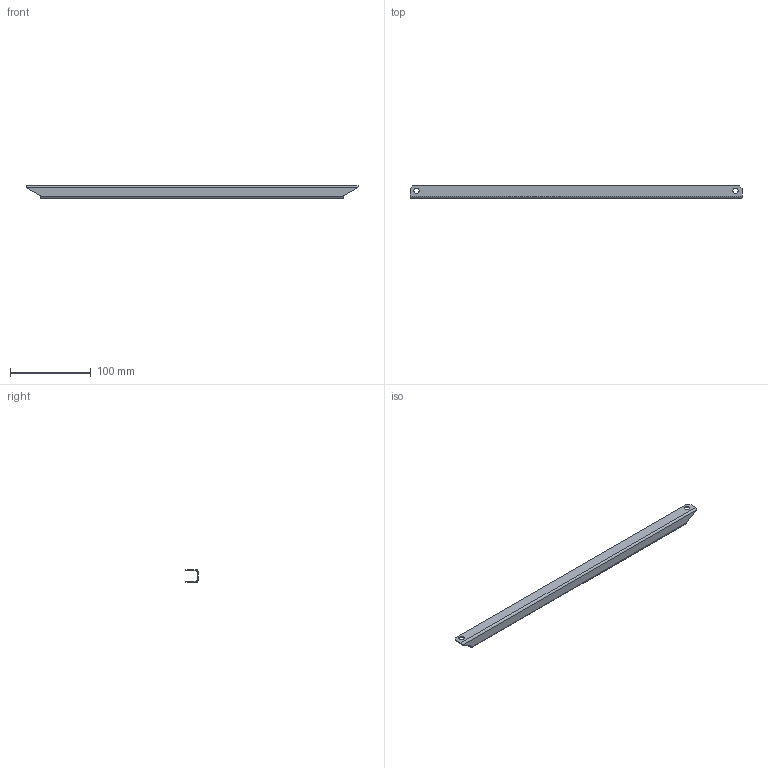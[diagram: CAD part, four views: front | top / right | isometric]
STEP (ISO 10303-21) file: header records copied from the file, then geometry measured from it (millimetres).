
FILE_DESCRIPTION (( 'STEP AP203' ), '1' );
FILE_NAME ('VB 50 Ðåéêà.STEP', '2012-11-15T06:56:25', ( 'Àëåêñàíäð' ), ( 'Ïðîâåíòî' ), 'SwSTEP 2.0', 'SolidWorks 2012', '' );
FILE_SCHEMA (( 'CONFIG_CONTROL_DESIGN' ));
Length unit declared in the file: millimetre
Products named in the file (1): VB 50 Ðåéêà
Bounding box: 410 x 15 x 15.5 mm (x, y, z)
Volume: 19217.6 mm3; surface area: 33361.6 mm2
Topology: 1 solids, 1 shells, 60 faces, 174 edges, 116 vertices
Faces by surface type: cylinder 42, plane 18
Entity records: 2195 total; most frequent: CARTESIAN_POINT 387, DIRECTION 376, ORIENTED_EDGE 348, EDGE_CURVE 174, AXIS2_PLACEMENT_3D 145, VERTEX_POINT 116, EDGE_LOOP 94, LINE 86
